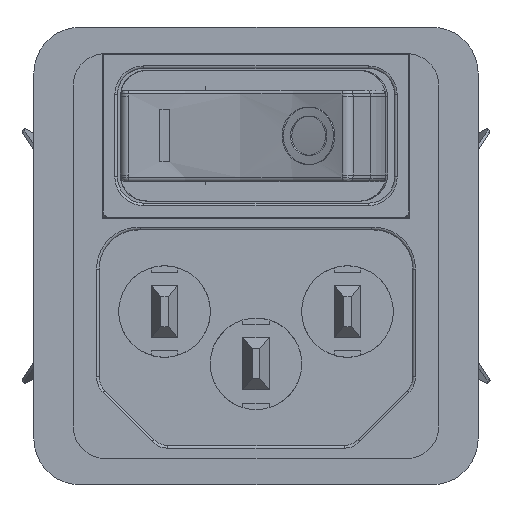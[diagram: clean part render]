
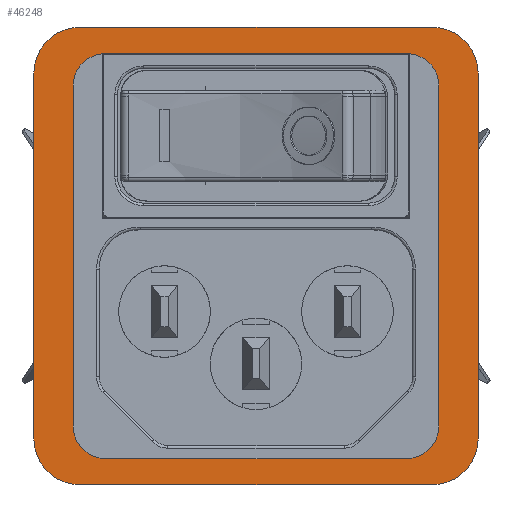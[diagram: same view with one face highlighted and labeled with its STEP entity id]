
A CAD part, left-side view. The second image highlights one B-rep face of the part: STEP entity #46248.
In plain terms, the highlighted planar face has unit normal (-1, 0, 0).
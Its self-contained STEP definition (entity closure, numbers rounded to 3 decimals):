
#31439=CARTESIAN_POINT('',(2.0,-11.75,15.487));
#31440=VERTEX_POINT('',#31439);
#31447=CARTESIAN_POINT('',(2.0,-11.75,15.5));
#31448=VERTEX_POINT('',#31447);
#31449=CARTESIAN_POINT('',(2.0,-11.75,15.5));
#31450=DIRECTION('',(0.0,0.0,-1.0));
#31451=VECTOR('',#31450,0.013);
#31452=LINE('',#31449,#31451);
#31453=EDGE_CURVE('',#31448,#31440,#31452,.T.);
#45958=CARTESIAN_POINT('',(2.0,-13.5,17.5));
#45959=VERTEX_POINT('',#45958);
#45966=CARTESIAN_POINT('',(2.0,-17.,14.0));
#45967=VERTEX_POINT('',#45966);
#45968=CARTESIAN_POINT('',(2.0,-13.5,14.));
#45969=DIRECTION('',(1.0,0.0,0.0));
#45970=DIRECTION('',(0.0,1.0,0.0));
#45971=AXIS2_PLACEMENT_3D('',#45968,#45969,#45970);
#45972=CIRCLE('',#45971,3.5);
#45973=EDGE_CURVE('',#45959,#45967,#45972,.T.);
#45989=CARTESIAN_POINT('',(2.0,13.5,17.5));
#45990=VERTEX_POINT('',#45989);
#45997=CARTESIAN_POINT('',(2.0,13.5,17.5));
#45998=DIRECTION('',(0.0,-1.0,0.0));
#45999=VECTOR('',#45998,27.0);
#46000=LINE('',#45997,#45999);
#46001=EDGE_CURVE('',#45990,#45959,#46000,.T.);
#46016=CARTESIAN_POINT('',(2.0,17.,14.0));
#46017=VERTEX_POINT('',#46016);
#46024=CARTESIAN_POINT('',(2.0,13.5,14.));
#46025=DIRECTION('',(1.0,0.0,0.0));
#46026=DIRECTION('',(0.0,0.0,-1.0));
#46027=AXIS2_PLACEMENT_3D('',#46024,#46025,#46026);
#46028=CIRCLE('',#46027,3.5);
#46029=EDGE_CURVE('',#46017,#45990,#46028,.T.);
#46040=CARTESIAN_POINT('',(2.0,17.,-14.0));
#46041=VERTEX_POINT('',#46040);
#46048=CARTESIAN_POINT('',(2.0,17.,-14.0));
#46049=DIRECTION('',(0.0,0.0,1.0));
#46050=VECTOR('',#46049,28.0);
#46051=LINE('',#46048,#46050);
#46052=EDGE_CURVE('',#46041,#46017,#46051,.T.);
#46067=CARTESIAN_POINT('',(2.0,13.5,-17.5));
#46068=VERTEX_POINT('',#46067);
#46075=CARTESIAN_POINT('',(2.0,13.5,-14.));
#46076=DIRECTION('',(1.0,0.0,0.0));
#46077=DIRECTION('',(0.0,-1.0,0.0));
#46078=AXIS2_PLACEMENT_3D('',#46075,#46076,#46077);
#46079=CIRCLE('',#46078,3.5);
#46080=EDGE_CURVE('',#46068,#46041,#46079,.T.);
#46091=CARTESIAN_POINT('',(2.0,-13.5,-17.5));
#46092=VERTEX_POINT('',#46091);
#46099=CARTESIAN_POINT('',(2.0,-13.5,-17.5));
#46100=DIRECTION('',(0.0,1.0,0.0));
#46101=VECTOR('',#46100,27.);
#46102=LINE('',#46099,#46101);
#46103=EDGE_CURVE('',#46092,#46068,#46102,.T.);
#46118=CARTESIAN_POINT('',(2.0,-17.,-14.0));
#46119=VERTEX_POINT('',#46118);
#46126=CARTESIAN_POINT('',(2.0,-13.5,-14.));
#46127=DIRECTION('',(1.0,0.0,0.0));
#46128=DIRECTION('',(0.0,0.0,1.0));
#46129=AXIS2_PLACEMENT_3D('',#46126,#46127,#46128);
#46130=CIRCLE('',#46129,3.5);
#46131=EDGE_CURVE('',#46119,#46092,#46130,.T.);
#46143=CARTESIAN_POINT('',(2.0,-17.,14.0));
#46144=DIRECTION('',(0.0,0.0,-1.0));
#46145=VECTOR('',#46144,28.0);
#46146=LINE('',#46143,#46145);
#46147=EDGE_CURVE('',#45967,#46119,#46146,.T.);
#46156=CARTESIAN_POINT('',(2.0,0.,0.));
#46157=DIRECTION('',(1.0,0.0,0.0));
#46158=DIRECTION('',(0.0,0.0,-1.0));
#46159=AXIS2_PLACEMENT_3D('',#46156,#46157,#46158);
#46160=PLANE('',#46159);
#46161=ORIENTED_EDGE('',*,*,#46052,.F.);
#46162=ORIENTED_EDGE('',*,*,#46080,.F.);
#46163=ORIENTED_EDGE('',*,*,#46103,.F.);
#46164=ORIENTED_EDGE('',*,*,#46131,.F.);
#46165=ORIENTED_EDGE('',*,*,#46147,.F.);
#46166=ORIENTED_EDGE('',*,*,#45973,.F.);
#46167=ORIENTED_EDGE('',*,*,#46001,.F.);
#46168=ORIENTED_EDGE('',*,*,#46029,.F.);
#46169=EDGE_LOOP('',(#46161,#46162,#46163,#46164,#46165,#46166,#46167,#46168));
#46170=FACE_OUTER_BOUND('',#46169,.T.);
#46171=ORIENTED_EDGE('',*,*,#31453,.T.);
#46172=CARTESIAN_POINT('',(2.0,-14.,13.0));
#46173=VERTEX_POINT('',#46172);
#46174=CARTESIAN_POINT('',(2.0,-11.5,13.0));
#46175=DIRECTION('',(-1.0,0.0,0.0));
#46176=DIRECTION('',(0.0,0.0,-1.0));
#46177=AXIS2_PLACEMENT_3D('',#46174,#46175,#46176);
#46178=CIRCLE('',#46177,2.5);
#46179=EDGE_CURVE('',#46173,#31440,#46178,.T.);
#46180=ORIENTED_EDGE('',*,*,#46179,.F.);
#46181=CARTESIAN_POINT('',(2.0,-14.,-13.));
#46182=VERTEX_POINT('',#46181);
#46183=CARTESIAN_POINT('',(2.0,-14.,-13.));
#46184=DIRECTION('',(0.0,0.0,1.0));
#46185=VECTOR('',#46184,26.);
#46186=LINE('',#46183,#46185);
#46187=EDGE_CURVE('',#46182,#46173,#46186,.T.);
#46188=ORIENTED_EDGE('',*,*,#46187,.F.);
#46189=CARTESIAN_POINT('',(2.0,-11.5,-15.5));
#46190=VERTEX_POINT('',#46189);
#46191=CARTESIAN_POINT('',(2.0,-11.5,-13.0));
#46192=DIRECTION('',(-1.0,0.0,0.0));
#46193=DIRECTION('',(0.0,1.0,0.0));
#46194=AXIS2_PLACEMENT_3D('',#46191,#46192,#46193);
#46195=CIRCLE('',#46194,2.5);
#46196=EDGE_CURVE('',#46190,#46182,#46195,.T.);
#46197=ORIENTED_EDGE('',*,*,#46196,.F.);
#46198=CARTESIAN_POINT('',(2.0,11.5,-15.5));
#46199=VERTEX_POINT('',#46198);
#46200=CARTESIAN_POINT('',(2.0,11.5,-15.5));
#46201=DIRECTION('',(0.0,-1.0,0.0));
#46202=VECTOR('',#46201,23.);
#46203=LINE('',#46200,#46202);
#46204=EDGE_CURVE('',#46199,#46190,#46203,.T.);
#46205=ORIENTED_EDGE('',*,*,#46204,.F.);
#46206=CARTESIAN_POINT('',(2.0,14.,-13.));
#46207=VERTEX_POINT('',#46206);
#46208=CARTESIAN_POINT('',(2.0,11.5,-13.));
#46209=DIRECTION('',(-1.0,0.0,0.0));
#46210=DIRECTION('',(0.0,0.0,1.0));
#46211=AXIS2_PLACEMENT_3D('',#46208,#46209,#46210);
#46212=CIRCLE('',#46211,2.5);
#46213=EDGE_CURVE('',#46207,#46199,#46212,.T.);
#46214=ORIENTED_EDGE('',*,*,#46213,.F.);
#46215=CARTESIAN_POINT('',(2.0,14.0,13.));
#46216=VERTEX_POINT('',#46215);
#46217=CARTESIAN_POINT('',(2.0,14.0,13.));
#46218=DIRECTION('',(0.0,0.0,-1.0));
#46219=VECTOR('',#46218,26.);
#46220=LINE('',#46217,#46219);
#46221=EDGE_CURVE('',#46216,#46207,#46220,.T.);
#46222=ORIENTED_EDGE('',*,*,#46221,.F.);
#46223=CARTESIAN_POINT('',(2.0,11.75,15.487));
#46224=VERTEX_POINT('',#46223);
#46225=CARTESIAN_POINT('',(2.0,11.5,13.));
#46226=DIRECTION('',(-1.0,0.0,0.0));
#46227=DIRECTION('',(0.0,-1.0,0.0));
#46228=AXIS2_PLACEMENT_3D('',#46225,#46226,#46227);
#46229=CIRCLE('',#46228,2.5);
#46230=EDGE_CURVE('',#46224,#46216,#46229,.T.);
#46231=ORIENTED_EDGE('',*,*,#46230,.F.);
#46232=CARTESIAN_POINT('',(2.0,11.75,15.5));
#46233=VERTEX_POINT('',#46232);
#46234=CARTESIAN_POINT('',(2.0,11.75,15.487));
#46235=DIRECTION('',(0.0,0.0,1.0));
#46236=VECTOR('',#46235,0.013);
#46237=LINE('',#46234,#46236);
#46238=EDGE_CURVE('',#46224,#46233,#46237,.T.);
#46239=ORIENTED_EDGE('',*,*,#46238,.T.);
#46240=CARTESIAN_POINT('',(2.0,11.75,15.5));
#46241=DIRECTION('',(0.0,-1.0,0.0));
#46242=VECTOR('',#46241,23.5);
#46243=LINE('',#46240,#46242);
#46244=EDGE_CURVE('',#46233,#31448,#46243,.T.);
#46245=ORIENTED_EDGE('',*,*,#46244,.T.);
#46246=EDGE_LOOP('',(#46171,#46180,#46188,#46197,#46205,#46214,#46222,#46231,#46239,#46245));
#46247=FACE_BOUND('',#46246,.T.);
#46248=ADVANCED_FACE('',(#46170,#46247),#46160,.F.);
